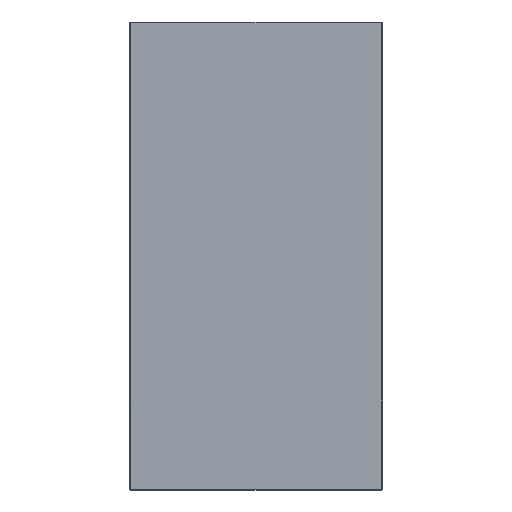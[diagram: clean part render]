
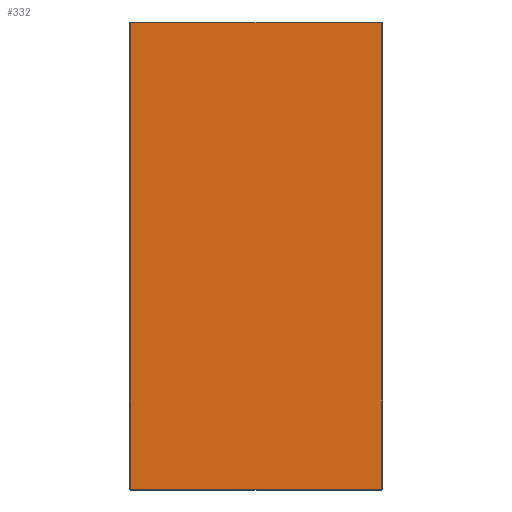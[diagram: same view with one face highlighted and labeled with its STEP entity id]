
A CAD part, top view. The second image highlights one B-rep face of the part: STEP entity #332.
In plain terms, the highlighted planar face has unit normal (0, 0, 1).
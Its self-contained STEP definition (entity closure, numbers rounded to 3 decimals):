
#26 = EDGE_CURVE ( 'NONE', #486, #488, #182, .T. ) ;
#32 = LINE ( 'NONE', #165, #289 ) ;
#52 = CARTESIAN_POINT ( 'NONE',  ( -133., -248., 27. ) ) ;
#67 = DIRECTION ( 'NONE',  ( 0., 0., 1. ) ) ;
#69 = DIRECTION ( 'NONE',  ( 1., 0., 0. ) ) ;
#74 = ORIENTED_EDGE ( 'NONE', *, *, #85, .T. ) ;
#85 = EDGE_CURVE ( 'NONE', #176, #486, #381, .T. ) ;
#102 = LINE ( 'NONE', #322, #347 ) ;
#138 = VECTOR ( 'NONE', #493, 1000. ) ;
#158 = DIRECTION ( 'NONE',  ( 0., 1., 0. ) ) ;
#165 = CARTESIAN_POINT ( 'NONE',  ( 133., 248., 27. ) ) ;
#173 = CARTESIAN_POINT ( 'NONE',  ( 0., 0., 27. ) ) ;
#176 = VERTEX_POINT ( 'NONE', #350 ) ;
#182 = LINE ( 'NONE', #52, #231 ) ;
#188 = PLANE ( 'NONE',  #268 ) ;
#196 = EDGE_CURVE ( 'NONE', #488, #562, #102, .T. ) ;
#205 = ORIENTED_EDGE ( 'NONE', *, *, #319, .T. ) ;
#231 = VECTOR ( 'NONE', #571, 1000. ) ;
#268 = AXIS2_PLACEMENT_3D ( 'NONE', #173, #67, #69 ) ;
#289 = VECTOR ( 'NONE', #158, 1000. ) ;
#308 = ORIENTED_EDGE ( 'NONE', *, *, #196, .T. ) ;
#319 = EDGE_CURVE ( 'NONE', #562, #176, #32, .T. ) ;
#322 = CARTESIAN_POINT ( 'NONE',  ( 134., -247., 27. ) ) ;
#332 = ADVANCED_FACE ( 'NONE', ( #430 ), #188, .T. ) ;
#334 = DIRECTION ( 'NONE',  ( 1., 0., 0. ) ) ;
#347 = VECTOR ( 'NONE', #334, 1000. ) ;
#350 = CARTESIAN_POINT ( 'NONE',  ( 133., 247., 27. ) ) ;
#381 = LINE ( 'NONE', #526, #138 ) ;
#430 = FACE_OUTER_BOUND ( 'NONE', #623, .T. ) ;
#462 = ORIENTED_EDGE ( 'NONE', *, *, #26, .T. ) ;
#486 = VERTEX_POINT ( 'NONE', #614 ) ;
#488 = VERTEX_POINT ( 'NONE', #584 ) ;
#493 = DIRECTION ( 'NONE',  ( -1., 0., 0. ) ) ;
#503 = CARTESIAN_POINT ( 'NONE',  ( 133., -247., 27. ) ) ;
#526 = CARTESIAN_POINT ( 'NONE',  ( -134., 247., 27. ) ) ;
#562 = VERTEX_POINT ( 'NONE', #503 ) ;
#571 = DIRECTION ( 'NONE',  ( 0., -1., 0. ) ) ;
#584 = CARTESIAN_POINT ( 'NONE',  ( -133., -247., 27. ) ) ;
#614 = CARTESIAN_POINT ( 'NONE',  ( -133., 247., 27. ) ) ;
#623 = EDGE_LOOP ( 'NONE', ( #205, #74, #462, #308 ) ) ;
